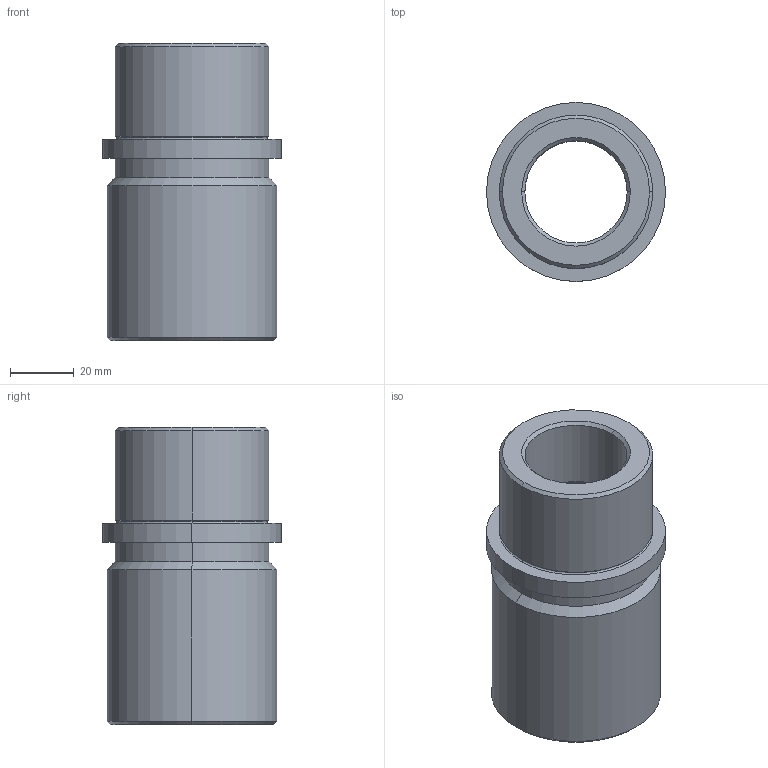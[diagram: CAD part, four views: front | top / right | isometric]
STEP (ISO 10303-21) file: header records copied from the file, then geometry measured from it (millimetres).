
FILE_DESCRIPTION (( 'STEP AP214' ), '1' );
FILE_NAME ('Casquillo SB500-32-93 b.STEP', '2019-01-10T13:32:48', ( '' ), ( '' ), 'SwSTEP 2.0', 'SolidWorks 2018', '' );
FILE_SCHEMA (( 'AUTOMOTIVE_DESIGN' ));
Length unit declared in the file: millimetre
Products named in the file (1): Casquillo SB500-32-93 b
Bounding box: 56 x 56 x 93 mm (x, y, z)
Volume: 116798.9 mm3; surface area: 28081.8 mm2
Topology: 1 solids, 1 shells, 40 faces, 80 edges, 44 vertices
Faces by surface type: cylinder 14, torus 12, cone 10, plane 4
Entity records: 1074 total; most frequent: DIRECTION 218, CARTESIAN_POINT 165, ORIENTED_EDGE 160, AXIS2_PLACEMENT_3D 97, EDGE_CURVE 80, CIRCLE 56, EDGE_LOOP 44, VERTEX_POINT 44
